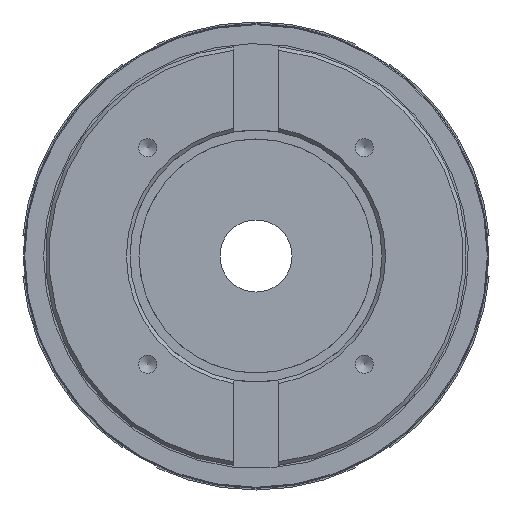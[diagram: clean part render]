
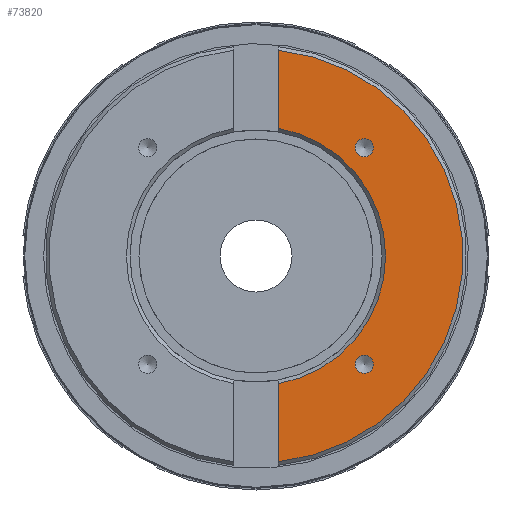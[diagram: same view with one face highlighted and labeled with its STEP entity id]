
A CAD part, left-side view. The second image highlights one B-rep face of the part: STEP entity #73820.
In plain terms, the highlighted planar face has unit normal (-1, 0, 0).
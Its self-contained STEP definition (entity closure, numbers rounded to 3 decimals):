
#410=FACE_BOUND('',#7225,.T.);
#411=FACE_BOUND('',#7226,.T.);
#828=PLANE('',#80960);
#3320=FACE_OUTER_BOUND('',#7224,.T.);
#7224=EDGE_LOOP('',(#54346,#54347,#54348,#54349));
#7225=EDGE_LOOP('',(#54350));
#7226=EDGE_LOOP('',(#54351));
#11454=LINE('',#124471,#15848);
#11455=LINE('',#124474,#15849);
#15848=VECTOR('',#98593,43.412);
#15849=VECTOR('',#98596,43.412);
#21390=CIRCLE('',#80961,72.);
#21391=CIRCLE('',#80962,115.);
#21392=CIRCLE('',#80963,5.053);
#21393=CIRCLE('',#80964,5.053);
#28235=VERTEX_POINT('',#124467);
#28236=VERTEX_POINT('',#124468);
#28237=VERTEX_POINT('',#124470);
#28238=VERTEX_POINT('',#124472);
#28239=VERTEX_POINT('',#124475);
#28240=VERTEX_POINT('',#124477);
#37536=EDGE_CURVE('',#28235,#28236,#21390,.T.);
#37537=EDGE_CURVE('',#28235,#28237,#11454,.T.);
#37538=EDGE_CURVE('',#28238,#28237,#21391,.T.);
#37539=EDGE_CURVE('',#28238,#28236,#11455,.T.);
#37540=EDGE_CURVE('',#28239,#28239,#21392,.T.);
#37541=EDGE_CURVE('',#28240,#28240,#21393,.T.);
#54346=ORIENTED_EDGE('',*,*,#37536,.F.);
#54347=ORIENTED_EDGE('',*,*,#37537,.T.);
#54348=ORIENTED_EDGE('',*,*,#37538,.F.);
#54349=ORIENTED_EDGE('',*,*,#37539,.T.);
#54350=ORIENTED_EDGE('',*,*,#37540,.T.);
#54351=ORIENTED_EDGE('',*,*,#37541,.T.);
#73820=ADVANCED_FACE('',(#3320,#410,#411),#828,.T.);
#80960=AXIS2_PLACEMENT_3D('',#124466,#98589,#98590);
#80961=AXIS2_PLACEMENT_3D('',#124469,#98591,#98592);
#80962=AXIS2_PLACEMENT_3D('',#124473,#98594,#98595);
#80963=AXIS2_PLACEMENT_3D('',#124476,#98597,#98598);
#80964=AXIS2_PLACEMENT_3D('',#124478,#98599,#98600);
#98589=DIRECTION('center_axis',(-1.,0.,0.));
#98590=DIRECTION('ref_axis',(0.,0.,1.));
#98591=DIRECTION('center_axis',(-1.,0.,0.));
#98592=DIRECTION('ref_axis',(0.,-1.,0.));
#98593=DIRECTION('',(0.,0.,-1.));
#98594=DIRECTION('center_axis',(1.,0.,0.));
#98595=DIRECTION('ref_axis',(0.,-1.,0.));
#98596=DIRECTION('',(0.,0.,-1.));
#98597=DIRECTION('center_axis',(1.,0.,0.));
#98598=DIRECTION('ref_axis',(0.,0.,1.));
#98599=DIRECTION('center_axis',(1.,0.,0.));
#98600=DIRECTION('ref_axis',(0.,0.,1.));
#124466=CARTESIAN_POINT('Origin',(-24.25,117.,0.));
#124467=CARTESIAN_POINT('',(-24.25,-12.5,-70.907));
#124468=CARTESIAN_POINT('',(-24.25,-12.5,70.907));
#124469=CARTESIAN_POINT('Origin',(-24.25,0.,0.));
#124470=CARTESIAN_POINT('',(-24.25,-12.5,-114.319));
#124471=CARTESIAN_POINT('',(-24.25,-12.5,62.5));
#124472=CARTESIAN_POINT('',(-24.25,-12.5,114.319));
#124473=CARTESIAN_POINT('Origin',(-24.25,0.,0.));
#124474=CARTESIAN_POINT('',(-24.25,-12.5,62.5));
#124475=CARTESIAN_POINT('',(-24.25,-60.104,65.157));
#124476=CARTESIAN_POINT('Origin',(-24.25,-60.104,60.104));
#124477=CARTESIAN_POINT('',(-24.25,-60.104,-55.051));
#124478=CARTESIAN_POINT('Origin',(-24.25,-60.104,-60.104));
